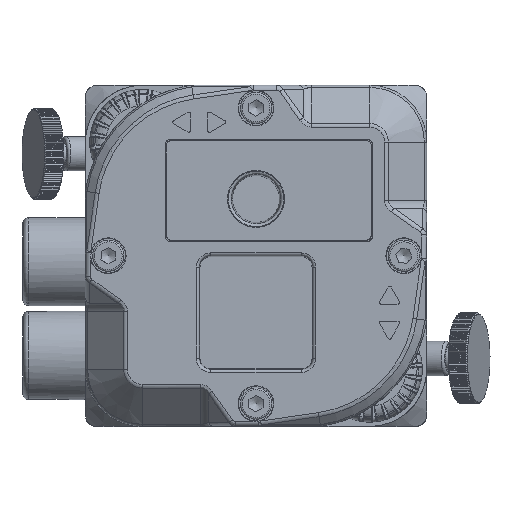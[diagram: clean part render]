
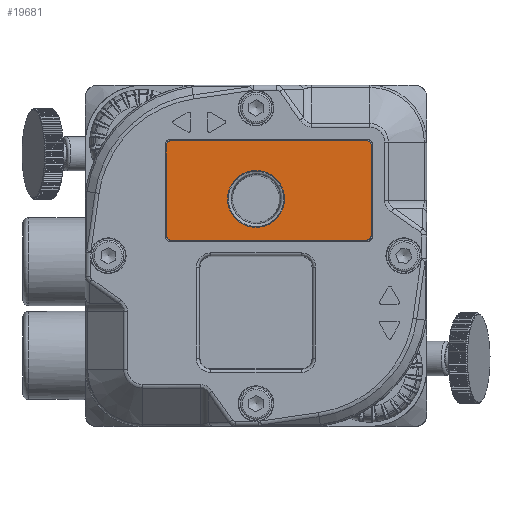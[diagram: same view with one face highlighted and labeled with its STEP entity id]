
A CAD part, top view. The second image highlights one B-rep face of the part: STEP entity #19681.
In plain terms, the highlighted planar face has unit normal (0, 0, 1).
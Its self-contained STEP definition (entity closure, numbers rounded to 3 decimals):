
#14881=PLANE('',#49867);
#19681=ADVANCED_FACE('',(#44861,#44862),#14881,.T.);
#22068=EDGE_LOOP('',(#32334));
#22069=EDGE_LOOP('',(#32335,#32336,#32337,#32338,#32339,#32340,#32341,#32342));
#32334=ORIENTED_EDGE('',*,*,#38455,.T.);
#32335=ORIENTED_EDGE('',*,*,#38546,.F.);
#32336=ORIENTED_EDGE('',*,*,#38547,.F.);
#32337=ORIENTED_EDGE('',*,*,#38548,.F.);
#32338=ORIENTED_EDGE('',*,*,#38549,.F.);
#32339=ORIENTED_EDGE('',*,*,#38550,.F.);
#32340=ORIENTED_EDGE('',*,*,#38551,.F.);
#32341=ORIENTED_EDGE('',*,*,#38552,.F.);
#32342=ORIENTED_EDGE('',*,*,#38553,.F.);
#38455=EDGE_CURVE('',#48024,#48024,#44020,.T.);
#38546=EDGE_CURVE('',#48102,#48103,#44111,.T.);
#38547=EDGE_CURVE('',#48104,#48102,#44112,.T.);
#38548=EDGE_CURVE('',#48105,#48104,#44113,.T.);
#38549=EDGE_CURVE('',#48106,#48105,#44114,.T.);
#38550=EDGE_CURVE('',#48107,#48106,#44115,.T.);
#38551=EDGE_CURVE('',#48108,#48107,#44116,.T.);
#38552=EDGE_CURVE('',#48109,#48108,#44117,.T.);
#38553=EDGE_CURVE('',#48103,#48109,#44118,.T.);
#44020=B_SPLINE_CURVE_WITH_KNOTS('',3,(#93568,#93569,#93570,#93571,#93572,
#93573,#93574,#93575,#93576,#93577,#93578,#93579,#93580,#93581,#93582,#93583,
#93584,#93585,#93586,#93587,#93588,#93589,#93590,#93591,#93592),
 .UNSPECIFIED.,.T.,.F.,(1,3,3,3,3,3,3,3,3,3,1),(-0.125,0.,0.125,0.25,0.375,
0.5,0.625,0.75,0.875,1.,1.125),.UNSPECIFIED.);
#44111=B_SPLINE_CURVE_WITH_KNOTS('',3,(#94322,#94323,#94324,#94325),
 .UNSPECIFIED.,.F.,.F.,(4,4),(0.,1.),.UNSPECIFIED.);
#44112=B_SPLINE_CURVE_WITH_KNOTS('',3,(#94328,#94329,#94330,#94331),
 .UNSPECIFIED.,.F.,.F.,(4,4),(0.,1.),.UNSPECIFIED.);
#44113=B_SPLINE_CURVE_WITH_KNOTS('',3,(#94333,#94334,#94335,#94336),
 .UNSPECIFIED.,.F.,.F.,(4,4),(0.,1.),.UNSPECIFIED.);
#44114=B_SPLINE_CURVE_WITH_KNOTS('',3,(#94338,#94339,#94340,#94341),
 .UNSPECIFIED.,.F.,.F.,(4,4),(0.,1.),.UNSPECIFIED.);
#44115=B_SPLINE_CURVE_WITH_KNOTS('',3,(#94343,#94344,#94345,#94346),
 .UNSPECIFIED.,.F.,.F.,(4,4),(0.,1.),.UNSPECIFIED.);
#44116=B_SPLINE_CURVE_WITH_KNOTS('',3,(#94348,#94349,#94350,#94351),
 .UNSPECIFIED.,.F.,.F.,(4,4),(0.,1.),.UNSPECIFIED.);
#44117=B_SPLINE_CURVE_WITH_KNOTS('',3,(#94353,#94354,#94355,#94356),
 .UNSPECIFIED.,.F.,.F.,(4,4),(0.,1.),.UNSPECIFIED.);
#44118=B_SPLINE_CURVE_WITH_KNOTS('',3,(#94358,#94359,#94360,#94361),
 .UNSPECIFIED.,.F.,.F.,(4,4),(0.,1.),.UNSPECIFIED.);
#44861=FACE_BOUND('',#22068,.T.);
#44862=FACE_BOUND('',#22069,.T.);
#48024=VERTEX_POINT('',#93593);
#48102=VERTEX_POINT('',#94326);
#48103=VERTEX_POINT('',#94327);
#48104=VERTEX_POINT('',#94332);
#48105=VERTEX_POINT('',#94337);
#48106=VERTEX_POINT('',#94342);
#48107=VERTEX_POINT('',#94347);
#48108=VERTEX_POINT('',#94352);
#48109=VERTEX_POINT('',#94357);
#49867=AXIS2_PLACEMENT_3D('',#94362,#52975,#52976);
#52975=DIRECTION('',(0.,0.,1.));
#52976=DIRECTION('',(-1.,0.,0.));
#93568=CARTESIAN_POINT('',(35.,40.,6.329));
#93569=CARTESIAN_POINT('',(35.,38.674,6.329));
#93570=CARTESIAN_POINT('',(34.473,37.402,6.329));
#93571=CARTESIAN_POINT('',(33.536,36.464,6.329));
#93572=CARTESIAN_POINT('',(32.599,35.527,6.329));
#93573=CARTESIAN_POINT('',(31.325,35.,6.329));
#93574=CARTESIAN_POINT('',(30.,35.,6.329));
#93575=CARTESIAN_POINT('',(28.675,35.,6.329));
#93576=CARTESIAN_POINT('',(27.402,35.527,6.329));
#93577=CARTESIAN_POINT('',(26.464,36.464,6.329));
#93578=CARTESIAN_POINT('',(25.527,37.401,6.329));
#93579=CARTESIAN_POINT('',(25.,38.675,6.329));
#93580=CARTESIAN_POINT('',(25.,40.,6.329));
#93581=CARTESIAN_POINT('',(25.,41.325,6.329));
#93582=CARTESIAN_POINT('',(25.527,42.598,6.329));
#93583=CARTESIAN_POINT('',(26.464,43.536,6.329));
#93584=CARTESIAN_POINT('',(27.401,44.473,6.329));
#93585=CARTESIAN_POINT('',(28.675,45.,6.329));
#93586=CARTESIAN_POINT('',(30.,45.,6.329));
#93587=CARTESIAN_POINT('',(31.325,45.,6.329));
#93588=CARTESIAN_POINT('',(32.598,44.473,6.329));
#93589=CARTESIAN_POINT('',(33.536,43.536,6.329));
#93590=CARTESIAN_POINT('',(34.473,42.599,6.329));
#93591=CARTESIAN_POINT('',(35.,41.327,6.329));
#93592=CARTESIAN_POINT('',(35.,40.,6.329));
#93593=CARTESIAN_POINT('',(35.,40.,6.329));
#94322=CARTESIAN_POINT('',(14.25,49.5,6.329));
#94323=CARTESIAN_POINT('',(14.25,49.893,6.329));
#94324=CARTESIAN_POINT('',(14.607,50.25,6.329));
#94325=CARTESIAN_POINT('',(15.,50.25,6.329));
#94326=CARTESIAN_POINT('',(14.25,49.5,6.329));
#94327=CARTESIAN_POINT('',(15.,50.25,6.329));
#94328=CARTESIAN_POINT('',(14.25,33.5,6.329));
#94329=CARTESIAN_POINT('',(14.25,38.833,6.329));
#94330=CARTESIAN_POINT('',(14.25,44.167,6.329));
#94331=CARTESIAN_POINT('',(14.25,49.5,6.329));
#94332=CARTESIAN_POINT('',(14.25,33.5,6.329));
#94333=CARTESIAN_POINT('',(15.,32.75,6.329));
#94334=CARTESIAN_POINT('',(14.607,32.75,6.329));
#94335=CARTESIAN_POINT('',(14.25,33.107,6.329));
#94336=CARTESIAN_POINT('',(14.25,33.5,6.329));
#94337=CARTESIAN_POINT('',(15.,32.75,6.329));
#94338=CARTESIAN_POINT('',(49.5,32.75,6.329));
#94339=CARTESIAN_POINT('',(38.,32.75,6.329));
#94340=CARTESIAN_POINT('',(26.5,32.75,6.329));
#94341=CARTESIAN_POINT('',(15.,32.75,6.329));
#94342=CARTESIAN_POINT('',(49.5,32.75,6.329));
#94343=CARTESIAN_POINT('',(50.25,33.5,6.329));
#94344=CARTESIAN_POINT('',(50.25,33.107,6.329));
#94345=CARTESIAN_POINT('',(49.893,32.75,6.329));
#94346=CARTESIAN_POINT('',(49.5,32.75,6.329));
#94347=CARTESIAN_POINT('',(50.25,33.5,6.329));
#94348=CARTESIAN_POINT('',(50.25,49.5,6.329));
#94349=CARTESIAN_POINT('',(50.25,44.167,6.329));
#94350=CARTESIAN_POINT('',(50.25,38.833,6.329));
#94351=CARTESIAN_POINT('',(50.25,33.5,6.329));
#94352=CARTESIAN_POINT('',(50.25,49.5,6.329));
#94353=CARTESIAN_POINT('',(49.5,50.25,6.329));
#94354=CARTESIAN_POINT('',(49.893,50.25,6.329));
#94355=CARTESIAN_POINT('',(50.25,49.893,6.329));
#94356=CARTESIAN_POINT('',(50.25,49.5,6.329));
#94357=CARTESIAN_POINT('',(49.5,50.25,6.329));
#94358=CARTESIAN_POINT('',(15.,50.25,6.329));
#94359=CARTESIAN_POINT('',(26.5,50.25,6.329));
#94360=CARTESIAN_POINT('',(38.,50.25,6.329));
#94361=CARTESIAN_POINT('',(49.5,50.25,6.329));
#94362=CARTESIAN_POINT('',(32.25,41.5,6.329));
